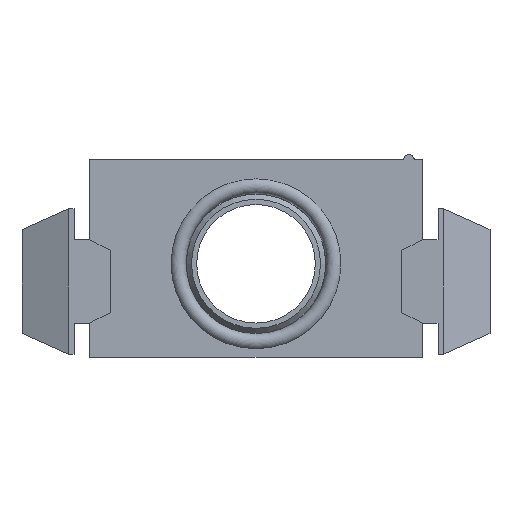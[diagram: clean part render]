
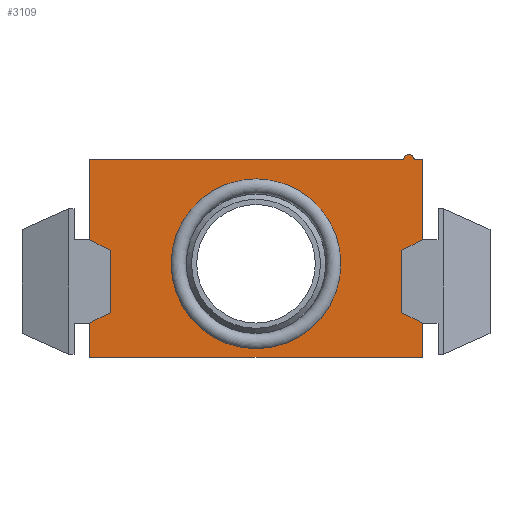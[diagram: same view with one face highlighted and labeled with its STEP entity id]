
A CAD part, front view. The second image highlights one B-rep face of the part: STEP entity #3109.
In plain terms, the highlighted planar face has unit normal (0, -1, 0).
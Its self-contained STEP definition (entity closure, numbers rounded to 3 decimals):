
#94=LINE('',#3998,#298);
#148=LINE('',#4208,#352);
#153=LINE('',#4218,#357);
#192=LINE('',#4298,#396);
#247=LINE('',#4510,#451);
#249=LINE('',#4514,#453);
#255=LINE('',#4534,#459);
#258=LINE('',#4542,#462);
#259=LINE('',#4544,#463);
#298=VECTOR('',#3403,1000.);
#352=VECTOR('',#3569,1000.);
#357=VECTOR('',#3576,1000.);
#396=VECTOR('',#3641,1000.);
#451=VECTOR('',#3808,1000.);
#453=VECTOR('',#3812,1000.);
#459=VECTOR('',#3832,1000.);
#462=VECTOR('',#3841,1000.);
#463=VECTOR('',#3844,1000.);
#577=PLANE('',#3292);
#1108=ORIENTED_EDGE('',*,*,#1150,.F.);
#1109=ORIENTED_EDGE('',*,*,#1402,.F.);
#1110=ORIENTED_EDGE('',*,*,#1417,.F.);
#1111=ORIENTED_EDGE('',*,*,#1273,.F.);
#1112=ORIENTED_EDGE('',*,*,#1191,.T.);
#1113=ORIENTED_EDGE('',*,*,#1278,.F.);
#1114=ORIENTED_EDGE('',*,*,#1416,.F.);
#1115=ORIENTED_EDGE('',*,*,#1414,.F.);
#1116=ORIENTED_EDGE('',*,*,#1412,.F.);
#1117=ORIENTED_EDGE('',*,*,#1400,.F.);
#1118=ORIENTED_EDGE('',*,*,#1317,.T.);
#1150=EDGE_CURVE('',#1432,#1432,#1624,.F.);
#1191=EDGE_CURVE('',#1463,#1464,#94,.T.);
#1273=EDGE_CURVE('',#1463,#1515,#148,.T.);
#1278=EDGE_CURVE('',#1518,#1464,#153,.T.);
#1317=EDGE_CURVE('',#1547,#1548,#192,.T.);
#1400=EDGE_CURVE('',#1547,#1600,#247,.T.);
#1402=EDGE_CURVE('',#1601,#1548,#249,.T.);
#1412=EDGE_CURVE('',#1600,#1608,#255,.T.);
#1414=EDGE_CURVE('',#1608,#1609,#1663,.T.);
#1416=EDGE_CURVE('',#1609,#1518,#258,.T.);
#1417=EDGE_CURVE('',#1515,#1601,#259,.T.);
#1432=VERTEX_POINT('',#3912);
#1463=VERTEX_POINT('',#3999);
#1464=VERTEX_POINT('',#4000);
#1515=VERTEX_POINT('',#4209);
#1518=VERTEX_POINT('',#4217);
#1547=VERTEX_POINT('',#4299);
#1548=VERTEX_POINT('',#4300);
#1600=VERTEX_POINT('',#4511);
#1601=VERTEX_POINT('',#4515);
#1608=VERTEX_POINT('',#4535);
#1609=VERTEX_POINT('',#4539);
#1624=CIRCLE('',#3136,8.163);
#1663=CIRCLE('',#3289,0.5);
#1825=EDGE_LOOP('',(#1108));
#1826=EDGE_LOOP('',(#1109,#1110,#1111,#1112,#1113,#1114,#1115,#1116,#1117,
#1118));
#2005=FACE_BOUND('',#1825,.T.);
#2006=FACE_BOUND('',#1826,.T.);
#3109=ADVANCED_FACE('',(#2005,#2006),#577,.F.);
#3136=AXIS2_PLACEMENT_3D('',#3911,#3329,#3330);
#3289=AXIS2_PLACEMENT_3D('',#4538,#3836,#3837);
#3292=AXIS2_PLACEMENT_3D('',#4545,#3845,#3846);
#3329=DIRECTION('',(0.,1.,0.));
#3330=DIRECTION('',(-1.,0.,0.));
#3403=DIRECTION('',(0.,0.,1.));
#3569=DIRECTION('',(0.,0.,-1.));
#3576=DIRECTION('',(0.,0.,-1.));
#3641=DIRECTION('',(0.,0.,-1.));
#3808=DIRECTION('',(0.,0.,1.));
#3812=DIRECTION('',(0.,0.,1.));
#3832=DIRECTION('',(1.,0.,0.));
#3836=DIRECTION('',(0.,1.,0.));
#3837=DIRECTION('',(-1.,0.,0.));
#3841=DIRECTION('',(1.,0.,0.));
#3844=DIRECTION('',(-1.,0.,0.));
#3845=DIRECTION('',(0.,1.,0.));
#3846=DIRECTION('',(0.,0.,-1.));
#3911=CARTESIAN_POINT('',(0.9,-3.,-0.5));
#3912=CARTESIAN_POINT('',(-7.263,-3.,-0.5));
#3998=CARTESIAN_POINT('',(16.9,-3.,-2.2));
#3999=CARTESIAN_POINT('',(16.9,-3.,-6.2));
#4000=CARTESIAN_POINT('',(16.9,-3.,1.8));
#4208=CARTESIAN_POINT('',(16.9,-3.,9.5));
#4209=CARTESIAN_POINT('',(16.9,-3.,-9.5));
#4217=CARTESIAN_POINT('',(16.9,-3.,9.5));
#4218=CARTESIAN_POINT('',(16.9,-3.,9.5));
#4298=CARTESIAN_POINT('',(-15.1,-3.,-2.2));
#4299=CARTESIAN_POINT('',(-15.1,-3.,1.8));
#4300=CARTESIAN_POINT('',(-15.1,-3.,-6.2));
#4510=CARTESIAN_POINT('',(-15.1,-3.,9.5));
#4511=CARTESIAN_POINT('',(-15.1,-3.,9.5));
#4514=CARTESIAN_POINT('',(-15.1,-3.,9.5));
#4515=CARTESIAN_POINT('',(-15.1,-3.,-9.5));
#4534=CARTESIAN_POINT('',(-16.9,-3.,9.5));
#4535=CARTESIAN_POINT('',(15.1,-3.,9.5));
#4538=CARTESIAN_POINT('',(15.6,-3.,9.5));
#4539=CARTESIAN_POINT('',(16.1,-3.,9.5));
#4542=CARTESIAN_POINT('',(16.1,-3.,9.5));
#4544=CARTESIAN_POINT('',(16.9,-3.,-9.5));
#4545=CARTESIAN_POINT('',(15.6,-3.,9.5));
